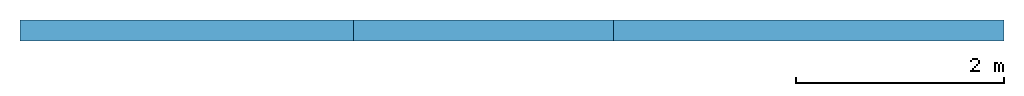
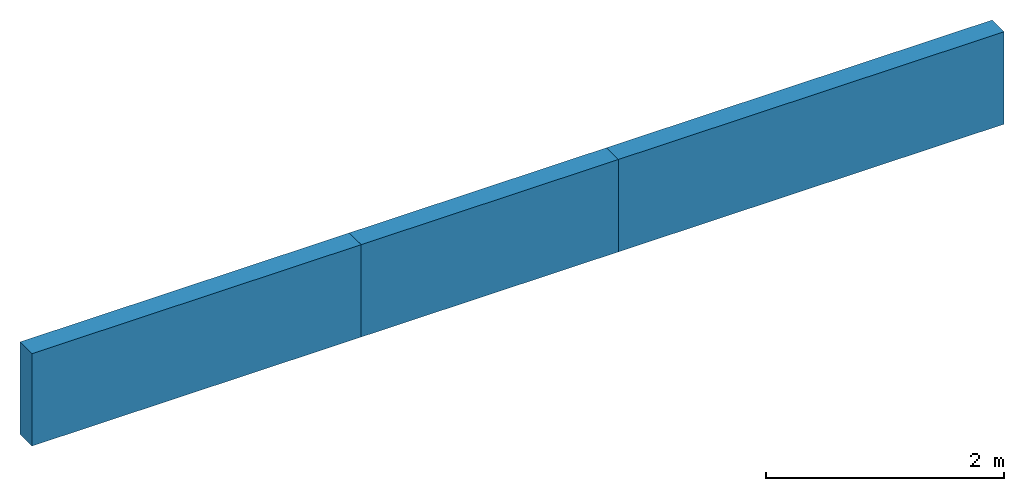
# One storey: 3 beams.
"""IFC2X3 building model written with IfcOpenShell, lengths in millimetres."""

from ifc_helpers import new_model, entity, si_unit, converted_unit, derived_unit, money_unit, direction, frame, frame_2d, origin_with_axes, place, context, subcontext, project, spatial, rectangle, extrude, material, type_object, element, save


model = new_model("IFC2X3")

# Units and contexts
model_context = context("Model", 3, precision=0.01, world=origin_with_axes(), true_north=direction((0.0, 1.0)))
body_context = subcontext(model_context, "Body", "Model", "MODEL_VIEW")
ifc_project = project(units=[si_unit("LENGTHUNIT", "METRE", prefix="MILLI"), si_unit("AREAUNIT", "SQUARE_METRE"), si_unit("VOLUMEUNIT", "CUBIC_METRE"), converted_unit("PLANEANGLEUNIT", "DEGREE", entity("IfcPlaneAngleMeasure", 0.0174532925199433), si_unit("PLANEANGLEUNIT", "RADIAN"), dimensions=[0, 0, 0, 0, 0, 0, 0]), money_unit("USD"), converted_unit("TIMEUNIT", "Year", entity("IfcTimeMeasure", 31556926.0), si_unit("TIMEUNIT", "SECOND"), dimensions=[0, 0, 1, 0, 0, 0, 0]), si_unit("MASSUNIT", "GRAM", prefix="KILO"), si_unit("THERMODYNAMICTEMPERATUREUNIT", "DEGREE_CELSIUS"), si_unit("LUMINOUSINTENSITYUNIT", "LUMEN"), si_unit("ENERGYUNIT", "JOULE", prefix="MEGA"), derived_unit("THERMALCONDUCTANCEUNIT", [(si_unit("POWERUNIT", "WATT"), 1), (si_unit("LENGTHUNIT", "METRE"), -1), (si_unit("THERMODYNAMICTEMPERATUREUNIT", "KELVIN"), -1)]), derived_unit("SPECIFICHEATCAPACITYUNIT", [(si_unit("ENERGYUNIT", "JOULE"), 1), (si_unit("MASSUNIT", "GRAM", prefix="KILO"), -1), (si_unit("THERMODYNAMICTEMPERATUREUNIT", "KELVIN"), -1)]), derived_unit("MASSDENSITYUNIT", [(si_unit("MASSUNIT", "GRAM", prefix="KILO"), 1), (si_unit("VOLUMEUNIT", "CUBIC_METRE"), -1)])], contexts=[model_context])

# Site, building, storey
site_placement = place(None, origin_with_axes())
site = spatial("IfcSite", under=ifc_project, at=site_placement, Name="Site", CompositionType="ELEMENT")
building_placement = place(site_placement, origin_with_axes())
building = spatial("IfcBuilding", under=site, at=building_placement, Name="Building", CompositionType="ELEMENT")
storey_placement = place(building_placement, frame((0.0, 0.0, 5750.0), z_axis=(0.0, 0.0, 1.0), x_axis=(1.0, 0.0, 0.0)))
storey = spatial("IfcBuildingStorey", under=building, at=storey_placement, Name="PLATIBANDA", CompositionType="ELEMENT", Elevation=5750.0)

# Beams
ifc_material = material(Name="Concreto")
beam_type = type_object("IfcBeamType", Name="Concreto 200 x 950", PredefinedType="NOTDEFINED")
beam_1_placement = place(storey_placement, frame((241676.782800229, -28820.6, -500.0), z_axis=(0.0, 0.0, 1.0), x_axis=(0.0, 1.0, 0.0)))
element("IfcBeam", 1, at=beam_1_placement, inside=storey, type_object=beam_type, material=ifc_material, Name="V309", context=body_context, shape_type="SweptSolid", body=[
    extrude(rectangle(XDim=950.0, YDim=200.0, at=frame_2d((-475.0, 0.0), x_axis=(1.0, 0.0))), frame((0.0, 0.0, 0.0), z_axis=(0.0, 1.0, 0.0), x_axis=(0.0, 0.0, 1.0)), (0.0, 0.0, 1.0), 2500.0),
])
beam_2_placement = place(storey_placement, frame((239176.782800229, -28820.6, -500.0), z_axis=(0.0, 0.0, 1.0), x_axis=(0.0, 1.0, 0.0)))
element("IfcBeam", 2, at=beam_2_placement, inside=storey, type_object=beam_type, material=ifc_material, Name="V309", context=body_context, shape_type="SweptSolid", body=[
    extrude(rectangle(XDim=950.0, YDim=200.0, at=frame_2d((-475.0, 0.0), x_axis=(1.0, 0.0))), frame((0.0, 0.0, 0.0), z_axis=(0.0, 1.0, 0.0), x_axis=(0.0, 0.0, 1.0)), (0.0, 0.0, 1.0), 3201.799999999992),
])
beam_3_placement = place(storey_placement, frame((245426.782800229, -28820.6, -500.0), z_axis=(0.0, 0.0, 1.0), x_axis=(0.0, 1.0, 0.0)))
element("IfcBeam", 3, at=beam_3_placement, inside=storey, type_object=beam_type, material=ifc_material, Name="V309", context=body_context, shape_type="SweptSolid", body=[
    extrude(rectangle(XDim=950.0, YDim=200.0, at=frame_2d((-475.0, 0.0), x_axis=(1.0, 0.0))), frame((0.0, 0.0, 0.0), z_axis=(0.0, 1.0, 0.0), x_axis=(0.0, 0.0, 1.0)), (0.0, 0.0, 1.0), 3750.0),
])

save(model, "model.ifc")
